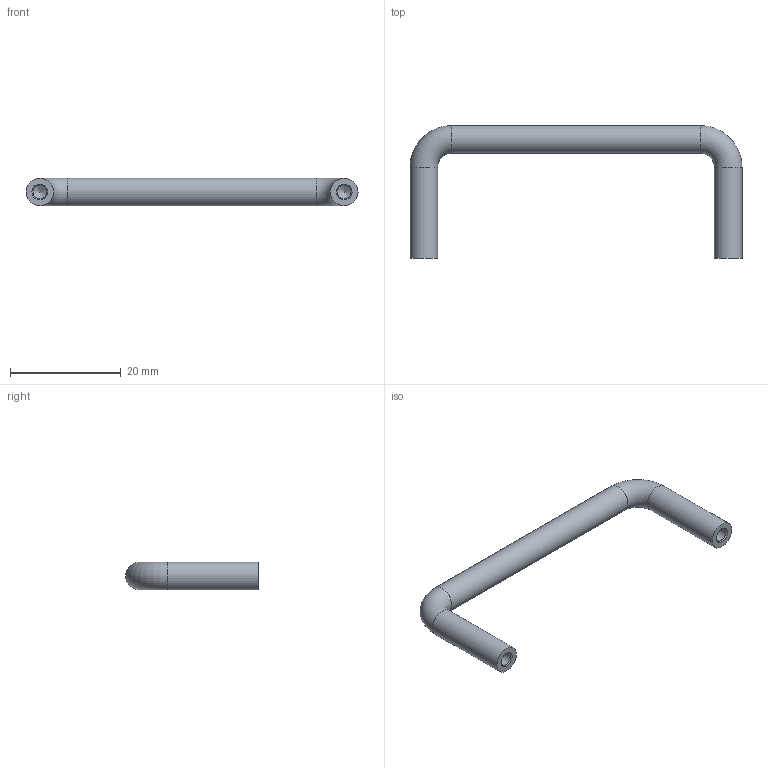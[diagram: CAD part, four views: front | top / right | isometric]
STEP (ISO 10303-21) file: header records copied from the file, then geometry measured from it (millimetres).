
FILE_DESCRIPTION(/* description */ ('','CAx-IF Rec.Pracs.---Representation and Presentation of Product Manufacturing Information (PMI)---4.0---2014-10-13'),/* implementation_level */ '2;1');
FILE_NAME(/* name */ 'E:\CAMTEC_2020_Pack and Go\Subrack_2U\2530318.stp',/* time_stamp */ '2020-09-21T13:50:01+02:00',/* author */ ('rryba'),/* organization */ (''),/* preprocessor_version */ 'ST-DEVELOPER v18.1',/* originating_system */ 'Autodesk Inventor 2021',/* authorisation */ '');
FILE_SCHEMA (('AP242_MANAGED_MODEL_BASED_3D_ENGINEERING_MIM_LF { 1 0 10303 442 1 1 4 }'));
Length unit declared in the file: millimetre
Products named in the file (1): 2530318
Bounding box: 60 x 24 x 5 mm (x, y, z)
Volume: 1761.3 mm3; surface area: 1634.7 mm2
Topology: 1 solids, 1 shells, 13 faces, 35 edges, 29 vertices
Faces by surface type: cylinder 5, cone 4, plane 2, torus 2
Full cylindrical faces by diameter (mm): 2.459 x2, 5 x3
Entity records: 457 total; most frequent: DIRECTION 79, CARTESIAN_POINT 70, ORIENTED_EDGE 50, AXIS2_PLACEMENT_3D 35, EDGE_CURVE 25, CIRCLE 21, VERTEX_POINT 16, EDGE_LOOP 15
